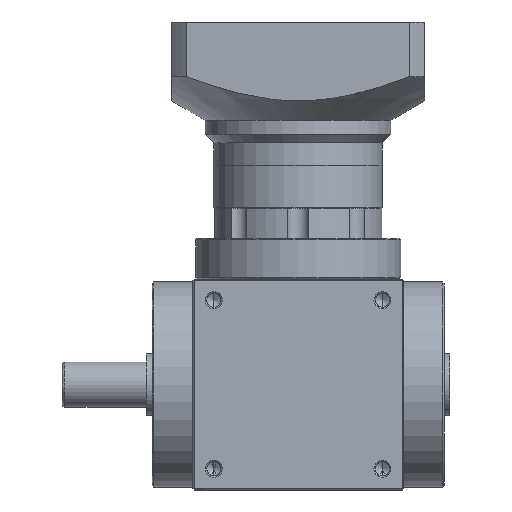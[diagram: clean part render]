
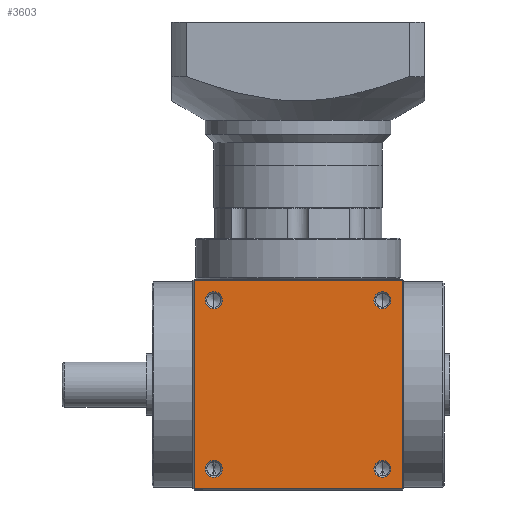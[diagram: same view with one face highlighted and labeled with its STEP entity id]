
A CAD part, front view. The second image highlights one B-rep face of the part: STEP entity #3603.
In plain terms, the highlighted planar face has unit normal (0, -1, 0).
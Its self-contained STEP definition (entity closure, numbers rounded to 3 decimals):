
#418 = DIRECTION ( 'NONE',  ( 0., -1., 0. ) ) ;
#2072 = CIRCLE ( 'NONE', #15567, 3.025 ) ;
#2232 = DIRECTION ( 'NONE',  ( -1., 0., 0. ) ) ;
#2381 = DIRECTION ( 'NONE',  ( 0., 0., 1. ) ) ;
#2484 = DIRECTION ( 'NONE',  ( 0., 1., 0. ) ) ;
#2508 = CARTESIAN_POINT ( 'NONE',  ( -30., -37.5, 7.5 ) ) ;
#2680 = CARTESIAN_POINT ( 'NONE',  ( -37.5, -37.5, 75. ) ) ;
#2862 = LINE ( 'NONE', #40421, #46095 ) ;
#3000 = ORIENTED_EDGE ( 'NONE', *, *, #6311, .F. ) ;
#3052 = PLANE ( 'NONE',  #50879 ) ;
#3603 = ADVANCED_FACE ( 'NONE', ( #35159, #46181, #25477, #26792, #14276 ), #3052, .F. ) ;
#3750 = CARTESIAN_POINT ( 'NONE',  ( -37., -37.5, 75. ) ) ;
#3789 = DIRECTION ( 'NONE',  ( 0., 0., 1. ) ) ;
#4105 = LINE ( 'NONE', #45511, #46004 ) ;
#4272 = VERTEX_POINT ( 'NONE', #39345 ) ;
#4418 = DIRECTION ( 'NONE',  ( 0., -1., 0. ) ) ;
#5123 = CARTESIAN_POINT ( 'NONE',  ( 30., -37.5, 10.525 ) ) ;
#5647 = AXIS2_PLACEMENT_3D ( 'NONE', #11829, #40966, #16034 ) ;
#6311 = EDGE_CURVE ( 'NONE', #41046, #29862, #33598, .T. ) ;
#6541 = CARTESIAN_POINT ( 'NONE',  ( -37.5, -37.5, 0.5 ) ) ;
#6821 = DIRECTION ( 'NONE',  ( 0., 0., -1. ) ) ;
#6999 = AXIS2_PLACEMENT_3D ( 'NONE', #46776, #46720, #46708 ) ;
#7374 = ORIENTED_EDGE ( 'NONE', *, *, #36394, .F. ) ;
#7844 = DIRECTION ( 'NONE',  ( 0., -1., 0. ) ) ;
#8326 = EDGE_LOOP ( 'NONE', ( #3000, #52704 ) ) ;
#8861 = CARTESIAN_POINT ( 'NONE',  ( -37., -37.5, 74.5 ) ) ;
#9421 = EDGE_CURVE ( 'NONE', #29862, #41046, #22975, .T. ) ;
#9833 = VERTEX_POINT ( 'NONE', #15454 ) ;
#10248 = EDGE_CURVE ( 'NONE', #4272, #49572, #18438, .T. ) ;
#10519 = CARTESIAN_POINT ( 'NONE',  ( 30., -37.5, 64.475 ) ) ;
#11810 = VERTEX_POINT ( 'NONE', #25424 ) ;
#11829 = CARTESIAN_POINT ( 'NONE',  ( -30., -37.5, 67.5 ) ) ;
#12335 = CIRCLE ( 'NONE', #18807, 3.025 ) ;
#12959 = CARTESIAN_POINT ( 'NONE',  ( 37., -37.5, 0.5 ) ) ;
#13456 = CIRCLE ( 'NONE', #5647, 3.025 ) ;
#13566 = EDGE_CURVE ( 'NONE', #18261, #46150, #2862, .T. ) ;
#14276 = FACE_OUTER_BOUND ( 'NONE', #16917, .T. ) ;
#14937 = ORIENTED_EDGE ( 'NONE', *, *, #36065, .F. ) ;
#15454 = CARTESIAN_POINT ( 'NONE',  ( -30., -37.5, 70.525 ) ) ;
#15532 = EDGE_CURVE ( 'NONE', #49572, #18261, #4105, .T. ) ;
#15567 = AXIS2_PLACEMENT_3D ( 'NONE', #23581, #52527, #27768 ) ;
#15929 = EDGE_CURVE ( 'NONE', #40784, #11810, #21978, .T. ) ;
#16034 = DIRECTION ( 'NONE',  ( 0., 0., -1. ) ) ;
#16917 = EDGE_LOOP ( 'NONE', ( #53137, #36147, #21953, #29118 ) ) ;
#18261 = VERTEX_POINT ( 'NONE', #36956 ) ;
#18438 = LINE ( 'NONE', #3750, #39195 ) ;
#18684 = EDGE_CURVE ( 'NONE', #18718, #35368, #2072, .T. ) ;
#18718 = VERTEX_POINT ( 'NONE', #32244 ) ;
#18807 = AXIS2_PLACEMENT_3D ( 'NONE', #2508, #31945, #6821 ) ;
#19324 = VERTEX_POINT ( 'NONE', #32896 ) ;
#20637 = DIRECTION ( 'NONE',  ( 1., 0., 0. ) ) ;
#21953 = ORIENTED_EDGE ( 'NONE', *, *, #10248, .F. ) ;
#21978 = CIRCLE ( 'NONE', #41641, 3.025 ) ;
#22465 = EDGE_LOOP ( 'NONE', ( #7374, #46829 ) ) ;
#22739 = AXIS2_PLACEMENT_3D ( 'NONE', #27413, #27402, #27271 ) ;
#22975 = CIRCLE ( 'NONE', #22739, 3.025 ) ;
#23581 = CARTESIAN_POINT ( 'NONE',  ( 30., -37.5, 7.5 ) ) ;
#25298 = ORIENTED_EDGE ( 'NONE', *, *, #18684, .F. ) ;
#25424 = CARTESIAN_POINT ( 'NONE',  ( -30., -37.5, 4.475 ) ) ;
#25477 = FACE_BOUND ( 'NONE', #52623, .T. ) ;
#25557 = CIRCLE ( 'NONE', #31041, 3.025 ) ;
#25788 = CARTESIAN_POINT ( 'NONE',  ( -30., -37.5, 67.5 ) ) ;
#26792 = FACE_BOUND ( 'NONE', #22465, .T. ) ;
#27271 = DIRECTION ( 'NONE',  ( 0., 0., -1. ) ) ;
#27402 = DIRECTION ( 'NONE',  ( 0., -1., 0. ) ) ;
#27413 = CARTESIAN_POINT ( 'NONE',  ( 30., -37.5, 67.5 ) ) ;
#27768 = DIRECTION ( 'NONE',  ( 0., 0., -1. ) ) ;
#29118 = ORIENTED_EDGE ( 'NONE', *, *, #50331, .F. ) ;
#29652 = CARTESIAN_POINT ( 'NONE',  ( 30., -37.5, 7.5 ) ) ;
#29862 = VERTEX_POINT ( 'NONE', #51382 ) ;
#29953 = DIRECTION ( 'NONE',  ( 0., 0., -1. ) ) ;
#31041 = AXIS2_PLACEMENT_3D ( 'NONE', #29652, #4418, #33804 ) ;
#31945 = DIRECTION ( 'NONE',  ( 0., -1., 0. ) ) ;
#32244 = CARTESIAN_POINT ( 'NONE',  ( 30., -37.5, 4.475 ) ) ;
#32896 = CARTESIAN_POINT ( 'NONE',  ( -30., -37.5, 64.475 ) ) ;
#32950 = CARTESIAN_POINT ( 'NONE',  ( -30., -37.5, 7.5 ) ) ;
#33598 = CIRCLE ( 'NONE', #6999, 3.025 ) ;
#33789 = CARTESIAN_POINT ( 'NONE',  ( -30., -37.5, 10.525 ) ) ;
#33804 = DIRECTION ( 'NONE',  ( 0., 0., -1. ) ) ;
#33808 = CIRCLE ( 'NONE', #40560, 3.025 ) ;
#34229 = VECTOR ( 'NONE', #2232, 1000. ) ;
#35159 = FACE_BOUND ( 'NONE', #49235, .T. ) ;
#35368 = VERTEX_POINT ( 'NONE', #5123 ) ;
#36065 = EDGE_CURVE ( 'NONE', #35368, #18718, #25557, .T. ) ;
#36147 = ORIENTED_EDGE ( 'NONE', *, *, #15532, .F. ) ;
#36394 = EDGE_CURVE ( 'NONE', #11810, #40784, #12335, .T. ) ;
#36956 = CARTESIAN_POINT ( 'NONE',  ( 37., -37.5, 74.5 ) ) ;
#37051 = DIRECTION ( 'NONE',  ( 0., 0., -1. ) ) ;
#38483 = EDGE_CURVE ( 'NONE', #9833, #19324, #13456, .T. ) ;
#39195 = VECTOR ( 'NONE', #3789, 1000. ) ;
#39345 = CARTESIAN_POINT ( 'NONE',  ( -37., -37.5, 0.5 ) ) ;
#40187 = DIRECTION ( 'NONE',  ( 0., 0., -1. ) ) ;
#40421 = CARTESIAN_POINT ( 'NONE',  ( 37., -37.5, 75. ) ) ;
#40560 = AXIS2_PLACEMENT_3D ( 'NONE', #25788, #418, #29953 ) ;
#40784 = VERTEX_POINT ( 'NONE', #33789 ) ;
#40966 = DIRECTION ( 'NONE',  ( 0., -1., 0. ) ) ;
#41046 = VERTEX_POINT ( 'NONE', #10519 ) ;
#41641 = AXIS2_PLACEMENT_3D ( 'NONE', #32950, #7844, #37051 ) ;
#45248 = LINE ( 'NONE', #6541, #34229 ) ;
#45511 = CARTESIAN_POINT ( 'NONE',  ( -37.5, -37.5, 74.5 ) ) ;
#46004 = VECTOR ( 'NONE', #20637, 1000. ) ;
#46095 = VECTOR ( 'NONE', #40187, 1000. ) ;
#46150 = VERTEX_POINT ( 'NONE', #12959 ) ;
#46181 = FACE_BOUND ( 'NONE', #8326, .T. ) ;
#46708 = DIRECTION ( 'NONE',  ( 0., 0., -1. ) ) ;
#46720 = DIRECTION ( 'NONE',  ( 0., -1., 0. ) ) ;
#46776 = CARTESIAN_POINT ( 'NONE',  ( 30., -37.5, 67.5 ) ) ;
#46829 = ORIENTED_EDGE ( 'NONE', *, *, #15929, .F. ) ;
#47909 = EDGE_CURVE ( 'NONE', #19324, #9833, #33808, .T. ) ;
#48212 = ORIENTED_EDGE ( 'NONE', *, *, #47909, .F. ) ;
#48795 = ORIENTED_EDGE ( 'NONE', *, *, #38483, .F. ) ;
#49235 = EDGE_LOOP ( 'NONE', ( #48212, #48795 ) ) ;
#49572 = VERTEX_POINT ( 'NONE', #8861 ) ;
#50331 = EDGE_CURVE ( 'NONE', #46150, #4272, #45248, .T. ) ;
#50879 = AXIS2_PLACEMENT_3D ( 'NONE', #2680, #2484, #2381 ) ;
#51382 = CARTESIAN_POINT ( 'NONE',  ( 30., -37.5, 70.525 ) ) ;
#52527 = DIRECTION ( 'NONE',  ( 0., -1., 0. ) ) ;
#52623 = EDGE_LOOP ( 'NONE', ( #25298, #14937 ) ) ;
#52704 = ORIENTED_EDGE ( 'NONE', *, *, #9421, .F. ) ;
#53137 = ORIENTED_EDGE ( 'NONE', *, *, #13566, .F. ) ;
